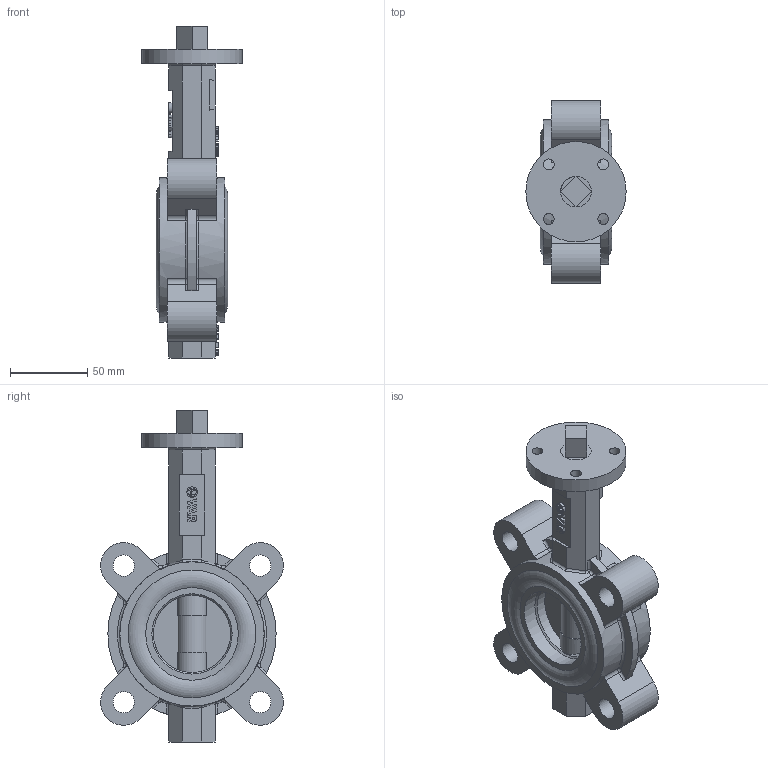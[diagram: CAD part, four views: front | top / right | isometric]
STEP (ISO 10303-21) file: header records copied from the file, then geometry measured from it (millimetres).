
FILE_DESCRIPTION(('STEP AP214'), '1');
FILE_NAME('Ïîâîðîòíûé çàòâîð ïîä ýëåêòðîïðèâîä', '', ('UNSPECIFIED'), ('UNSPECIFIED'), 'C3D Converter', 'C3D Toolkit', '');
FILE_SCHEMA(('AUTOMOTIVE_DESIGN { 1 0 10303 214 3 1 1}'));
Length unit declared in the file: millimetre
Products named in the file (6): П
Assembly tree (6 placements, depth 2):
  (unnamed)
    (unnamed)
    П  x2
    (unnamed)
    (unnamed)
    (unnamed)
Bounding box: 65 x 118.27 x 215 mm (x, y, z)
Volume: 434277.3 mm3; surface area: 127386.2 mm2
Topology: 6 solids, 6 shells, 503 faces, 1316 edges, 847 vertices
Faces by surface type: plane 206, extrusion 135, cylinder 109, torus 34, bspline 8, sphere 7, cone 4
Full cylindrical faces by diameter (mm): 6.865 x1, 7 x4, 13.835 x4, 14 x5, 15.4 x1, 19.799 x5, 20.235 x4, 50 x1, 52 x2, 60 x2, 65 x1, 71.333 x4, 82.667 x4, 93.447 x2
Entity records: 20807 total; most frequent: CARTESIAN_POINT 7029, ORIENTED_EDGE 2510, DIRECTION 1995, EDGE_CURVE 1255, VERTEX_POINT 842, VECTOR 769, LINE 634, AXIS2_PLACEMENT_3D 613
